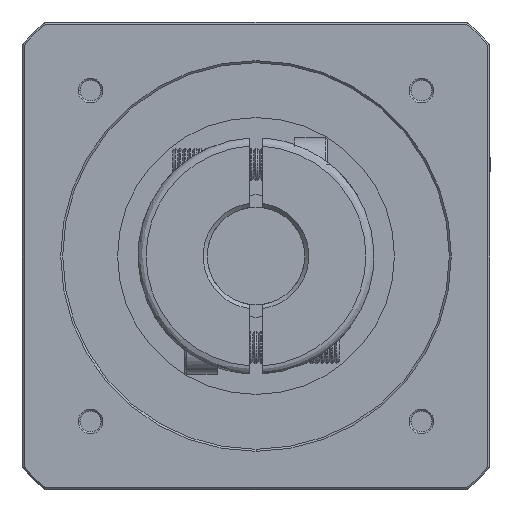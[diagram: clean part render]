
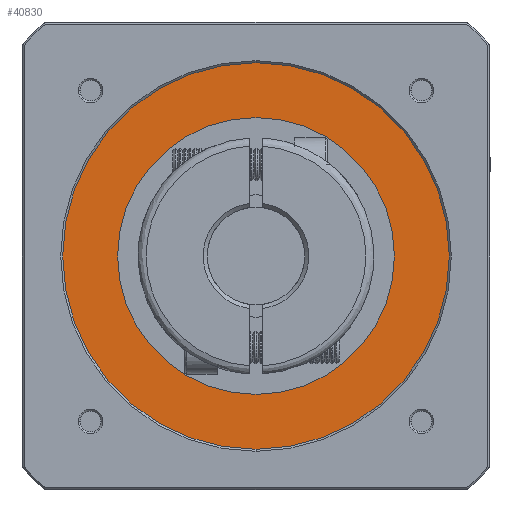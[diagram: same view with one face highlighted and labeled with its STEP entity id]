
A CAD part, front view. The second image highlights one B-rep face of the part: STEP entity #40830.
In plain terms, the highlighted planar face has unit normal (0, 1, 0).
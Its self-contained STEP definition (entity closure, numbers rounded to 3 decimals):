
#7580 = FACE_OUTER_BOUND ( 'NONE', #66416, .T. ) ;
#8214 = AXIS2_PLACEMENT_3D ( 'NONE', #21803, #69951, #28737 ) ;
#13311 = EDGE_CURVE ( 'NONE', #30416, #60788, #38207, .T. ) ;
#17673 = DIRECTION ( 'NONE',  ( 0., 1., 0. ) ) ;
#21803 = CARTESIAN_POINT ( 'NONE',  ( 0., -169.111, 0. ) ) ;
#23448 = VERTEX_POINT ( 'NONE', #38390 ) ;
#24378 = CARTESIAN_POINT ( 'NONE',  ( 0., -169.111, 0. ) ) ;
#26014 = AXIS2_PLACEMENT_3D ( 'NONE', #58916, #17673, #65841 ) ;
#27300 = DIRECTION ( 'NONE',  ( 0., -1., 0. ) ) ;
#28518 = ORIENTED_EDGE ( 'NONE', *, *, #13311, .T. ) ;
#28737 = DIRECTION ( 'NONE',  ( 0., 0., 1. ) ) ;
#30416 = VERTEX_POINT ( 'NONE', #51144 ) ;
#31356 = DIRECTION ( 'NONE',  ( 0., 0., -1. ) ) ;
#31364 = ORIENTED_EDGE ( 'NONE', *, *, #35623, .T. ) ;
#32501 = AXIS2_PLACEMENT_3D ( 'NONE', #37603, #85645, #44494 ) ;
#35623 = EDGE_CURVE ( 'NONE', #56532, #23448, #84911, .T. ) ;
#37603 = CARTESIAN_POINT ( 'NONE',  ( 0., -169.111, 0. ) ) ;
#38207 = CIRCLE ( 'NONE', #32501, 34. ) ;
#38390 = CARTESIAN_POINT ( 'NONE',  ( 0., -169.111, -47.5 ) ) ;
#40830 = ADVANCED_FACE ( 'NONE', ( #44229, #7580 ), #82040, .F. ) ;
#43030 = CIRCLE ( 'NONE', #8214, 34. ) ;
#44229 = FACE_BOUND ( 'NONE', #82619, .T. ) ;
#44494 = DIRECTION ( 'NONE',  ( 0., 0., 1. ) ) ;
#45994 = AXIS2_PLACEMENT_3D ( 'NONE', #24378, #72505, #31356 ) ;
#51144 = CARTESIAN_POINT ( 'NONE',  ( 0., -169.111, -34. ) ) ;
#53310 = ORIENTED_EDGE ( 'NONE', *, *, #87120, .T. ) ;
#56532 = VERTEX_POINT ( 'NONE', #58563 ) ;
#56657 = AXIS2_PLACEMENT_3D ( 'NONE', #68531, #27300, #75412 ) ;
#57239 = CIRCLE ( 'NONE', #26014, 47.5 ) ;
#58563 = CARTESIAN_POINT ( 'NONE',  ( 0., -169.111, 47.5 ) ) ;
#58849 = CARTESIAN_POINT ( 'NONE',  ( 0., -169.111, 34. ) ) ;
#58916 = CARTESIAN_POINT ( 'NONE',  ( 0., -169.111, 0. ) ) ;
#60788 = VERTEX_POINT ( 'NONE', #58849 ) ;
#65841 = DIRECTION ( 'NONE',  ( 0., 0., -1. ) ) ;
#66416 = EDGE_LOOP ( 'NONE', ( #87802, #31364 ) ) ;
#68531 = CARTESIAN_POINT ( 'NONE',  ( -48.07, -169.111, -48.07 ) ) ;
#69951 = DIRECTION ( 'NONE',  ( 0., -1., 0. ) ) ;
#72505 = DIRECTION ( 'NONE',  ( 0., 1., 0. ) ) ;
#75412 = DIRECTION ( 'NONE',  ( 1., 0., 0. ) ) ;
#82040 = PLANE ( 'NONE',  #56657 ) ;
#82619 = EDGE_LOOP ( 'NONE', ( #53310, #28518 ) ) ;
#84911 = CIRCLE ( 'NONE', #45994, 47.5 ) ;
#85645 = DIRECTION ( 'NONE',  ( 0., -1., 0. ) ) ;
#85826 = EDGE_CURVE ( 'NONE', #23448, #56532, #57239, .T. ) ;
#87120 = EDGE_CURVE ( 'NONE', #60788, #30416, #43030, .T. ) ;
#87802 = ORIENTED_EDGE ( 'NONE', *, *, #85826, .T. ) ;
